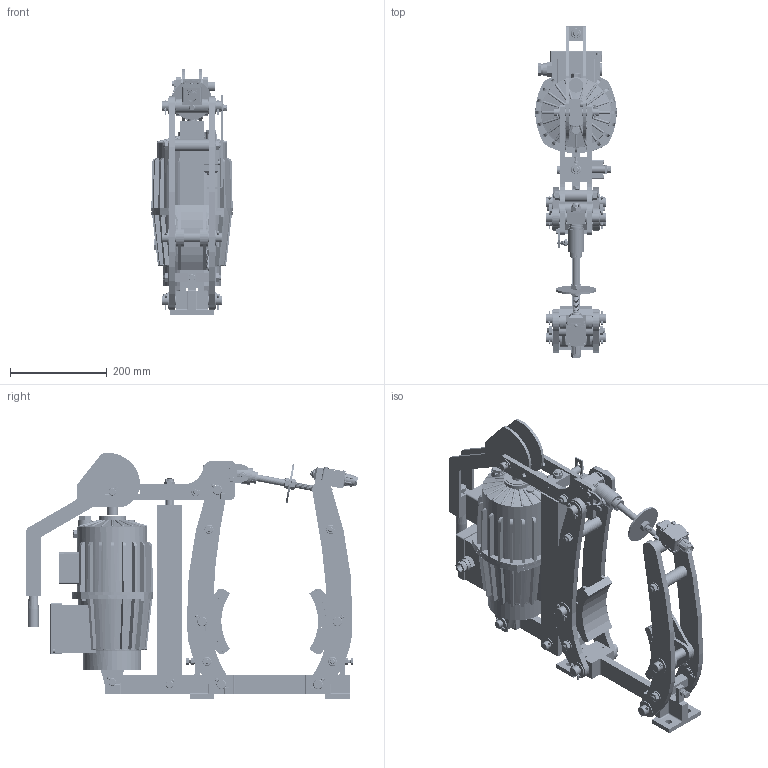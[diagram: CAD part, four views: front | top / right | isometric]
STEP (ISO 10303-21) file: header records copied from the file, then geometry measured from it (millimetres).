
FILE_DESCRIPTION((''),'2;1');
FILE_NAME('4459_204_552_E00002','2018-01-30T',('VORO'),(''),'CREO PARAMETRIC BY PTC INC, 2017170','CREO PARAMETRIC BY PTC INC, 2017170','');
FILE_SCHEMA(('CONFIG_CONTROL_DESIGN'));
Products named in the file (1): 4459_204_552_E00002
Bounding box: 168.01 x 685.95 x 507.99 mm (x, y, z)
Surface area: 1527610 mm2 (no closed solid volume)
Topology: 0 solids, 2980 shells, 3698 faces, 23735 edges, 22255 vertices
Faces by surface type: plane 1402, cylinder 1206, cone 843, torus 207, bspline 37, sphere 3
Entity records: 399008 total; most frequent: CARTESIAN_POINT 124896, PRESENTATION_STYLE_ASSIGNMENT 30401, STYLED_ITEM 26703, DIRECTION 25948, ORIENTED_EDGE 25199, CURVE_STYLE 23723, EDGE_CURVE 23723, VERTEX_POINT 22255
